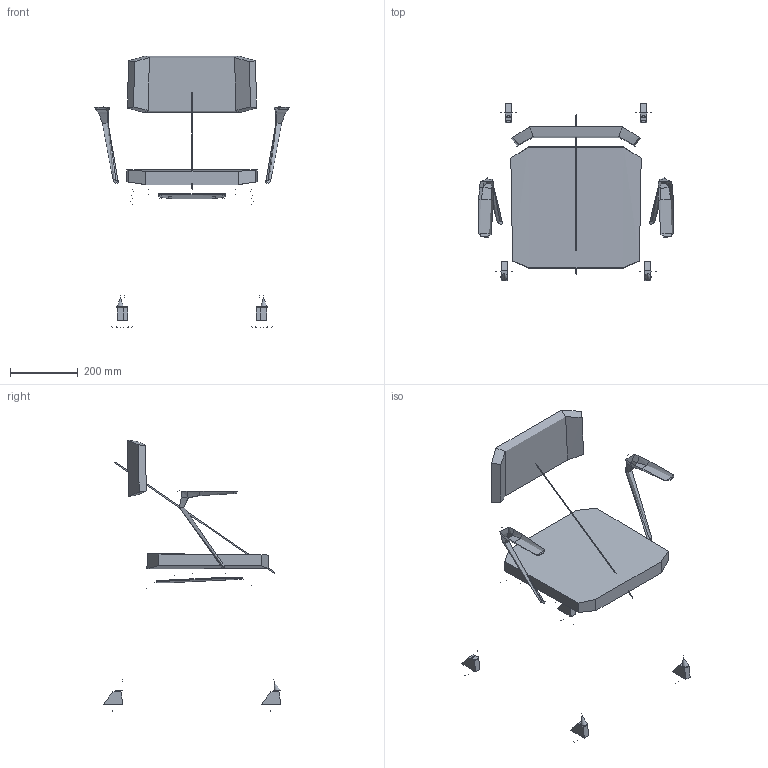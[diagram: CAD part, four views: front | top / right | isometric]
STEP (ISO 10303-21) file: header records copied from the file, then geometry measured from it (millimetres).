
FILE_DESCRIPTION(/* description */ (''),/* implementation_level */ '2;1');
FILE_NAME(/* name */ 'ZOE 222-BL,BR-ZOE',/* time_stamp */ '2023-05-16T22:26:51+02:00',/* author */ (''),/* organization */ (''),/* preprocessor_version */ 'ST-DEVELOPER v16.5',/* originating_system */ 'Rhino 7.29',/* authorisation */ '');
FILE_SCHEMA (('CONFIG_CONTROL_DESIGN'));
Length unit declared in the file: millimetre
Products named in the file (1): Document
Bounding box: 578.69 x 525.92 x 805.24 mm (x, y, z)
Volume: 14440647.9 mm3; surface area: 1505744.7 mm2
Topology: 8 solids, 36 shells, 217 faces, 496 edges, 318 vertices
Faces by surface type: bspline 113, plane 66, cylinder 38
Full cylindrical faces by diameter (mm): 11 x4, 18 x16, 22 x2, 60 x8
Entity records: 23442 total; most frequent: CARTESIAN_POINT 20198, ORIENTED_EDGE 906, EDGE_CURVE 493, VERTEX_POINT 316, B_SPLINE_CURVE_WITH_KNOTS 290, EDGE_LOOP 221, ADVANCED_FACE 217, FACE_OUTER_BOUND 217
